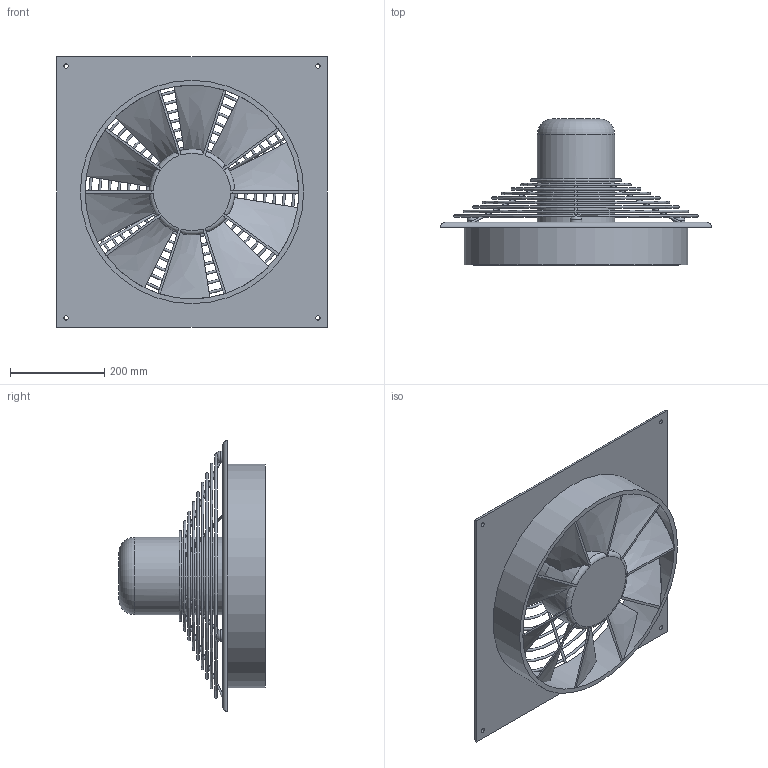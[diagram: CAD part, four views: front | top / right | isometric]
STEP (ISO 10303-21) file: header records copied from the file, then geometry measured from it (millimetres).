
FILE_DESCRIPTION(/* description */ (''),/* implementation_level */ '2;1');
FILE_NAME(/* name */ 'Z:\Output\HQD_450-6_EX-01473-001.stp',/* time_stamp */ '2020-05-11T13:48:29+02:00',/* author */ ('pareshmistry'),/* organization */ (''),/* preprocessor_version */ 'ST-DEVELOPER v17.2',/* originating_system */ 'Autodesk Inventor 2019',/* authorisation */ '');
FILE_SCHEMA (('AUTOMOTIVE_DESIGN { 1 0 10303 214 3 1 1 }'));
Length unit declared in the file: millimetre
Products named in the file (1): HQW EC 450
Bounding box: 575 x 310 x 575 mm (x, y, z)
Volume: 10164836.9 mm3; surface area: 1233423.8 mm2
Topology: 9 solids, 9 shells, 98 faces, 333 edges, 216 vertices
Faces by surface type: bspline 33, cylinder 23, plane 22, torus 20
Full cylindrical faces by diameter (mm): 5 x6, 9 x4, 25 x3, 164 x1, 182 x1, 454 x1, 474 x1
Entity records: 5512 total; most frequent: CARTESIAN_POINT 2619, ORIENTED_EDGE 706, DIRECTION 475, EDGE_CURVE 353, VERTEX_POINT 216, AXIS2_PLACEMENT_3D 192, B_SPLINE_CURVE_WITH_KNOTS 133, EDGE_LOOP 124
